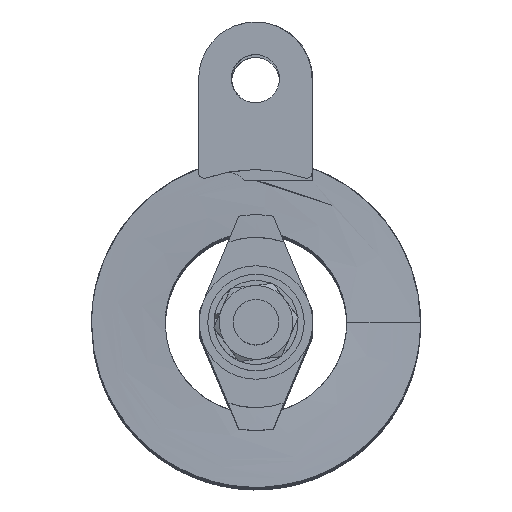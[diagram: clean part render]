
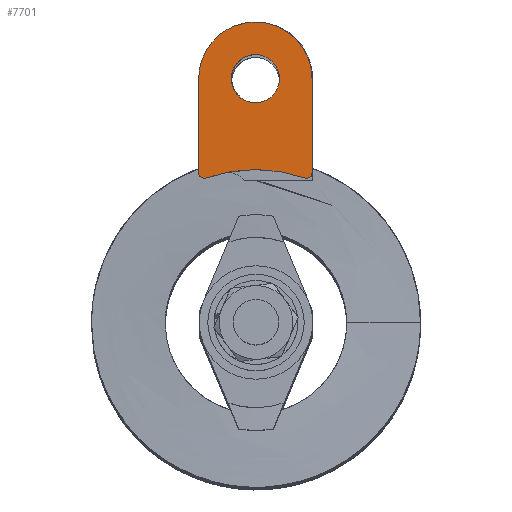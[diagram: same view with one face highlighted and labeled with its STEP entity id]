
A CAD part, top view. The second image highlights one B-rep face of the part: STEP entity #7701.
In plain terms, the highlighted planar face has unit normal (-0.036, 0, 0.999) as drawn and (0.036, -0.999, 0) by its records, which use the part's own axes.
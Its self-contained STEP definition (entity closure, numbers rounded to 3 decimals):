
#138=FACE_BOUND('',#2778,.T.);
#1308=LINE('',#21251,#1745);
#1313=LINE('',#23562,#1750);
#1745=VECTOR('',#9555,10.);
#1750=VECTOR('',#9562,10.);
#2364=FACE_OUTER_BOUND('',#2777,.T.);
#2777=EDGE_LOOP('',(#7072,#7073,#7074,#7075,#7076,#7077));
#2778=EDGE_LOOP('',(#7078));
#2854=CIRCLE('',#8318,1.);
#2857=CIRCLE('',#8323,26.);
#2858=CIRCLE('',#8325,1.);
#2859=CIRCLE('',#8327,10.);
#2860=CIRCLE('',#8329,4.25);
#3609=VERTEX_POINT('',#20974);
#3611=VERTEX_POINT('',#21018);
#3615=VERTEX_POINT('',#21058);
#3616=VERTEX_POINT('',#21078);
#3620=VERTEX_POINT('',#21111);
#3621=VERTEX_POINT('',#21120);
#3622=VERTEX_POINT('',#21124);
#4752=EDGE_CURVE('',#3609,#3611,#2854,.T.);
#4758=EDGE_CURVE('',#3611,#3615,#2857,.T.);
#4760=EDGE_CURVE('',#3615,#3616,#2858,.T.);
#4765=EDGE_CURVE('',#3621,#3620,#2859,.T.);
#4767=EDGE_CURVE('',#3622,#3622,#2860,.T.);
#4773=EDGE_CURVE('',#3616,#3621,#1308,.T.);
#4782=EDGE_CURVE('',#3609,#3620,#1313,.T.);
#7072=ORIENTED_EDGE('',*,*,#4760,.T.);
#7073=ORIENTED_EDGE('',*,*,#4773,.T.);
#7074=ORIENTED_EDGE('',*,*,#4765,.T.);
#7075=ORIENTED_EDGE('',*,*,#4782,.F.);
#7076=ORIENTED_EDGE('',*,*,#4752,.T.);
#7077=ORIENTED_EDGE('',*,*,#4758,.T.);
#7078=ORIENTED_EDGE('',*,*,#4767,.T.);
#7160=PLANE('',#8331);
#7701=ADVANCED_FACE('',(#2364,#138),#7160,.T.);
#8318=AXIS2_PLACEMENT_3D('',#21020,#9524,#9525);
#8323=AXIS2_PLACEMENT_3D('',#21060,#9535,#9536);
#8325=AXIS2_PLACEMENT_3D('',#21079,#9539,#9540);
#8327=AXIS2_PLACEMENT_3D('',#21121,#9544,#9545);
#8329=AXIS2_PLACEMENT_3D('',#21125,#9549,#9550);
#8331=AXIS2_PLACEMENT_3D('',#23561,#9560,#9561);
#9524=DIRECTION('center_axis',(0.036,-0.999,0.));
#9525=DIRECTION('ref_axis',(0.999,0.036,0.));
#9535=DIRECTION('center_axis',(-0.036,0.999,0.));
#9536=DIRECTION('ref_axis',(0.333,0.012,0.943));
#9539=DIRECTION('center_axis',(0.036,-0.999,0.));
#9540=DIRECTION('ref_axis',(0.333,0.012,0.943));
#9544=DIRECTION('center_axis',(0.036,-0.999,0.));
#9545=DIRECTION('ref_axis',(-0.999,-0.036,0.));
#9549=DIRECTION('center_axis',(-0.036,0.999,0.));
#9550=DIRECTION('ref_axis',(-0.999,-0.036,0.));
#9555=DIRECTION('',(0.,0.,-1.));
#9560=DIRECTION('center_axis',(0.036,-0.999,0.));
#9561=DIRECTION('ref_axis',(-0.999,-0.036,0.));
#9562=DIRECTION('',(0.,0.,-1.));
#20974=CARTESIAN_POINT('',(10.113,-1.509,-26.456));
#21018=CARTESIAN_POINT('',(8.781,-1.557,-25.513));
#21020=CARTESIAN_POINT('Origin',(9.114,-1.545,-26.456));
#21058=CARTESIAN_POINT('',(-8.541,-2.188,-25.513));
#21060=CARTESIAN_POINT('Origin',(0.12,-1.873,-1.));
#21078=CARTESIAN_POINT('',(-9.874,-2.237,-26.456));
#21079=CARTESIAN_POINT('Origin',(-8.874,-2.2,-26.456));
#21111=CARTESIAN_POINT('',(10.113,-1.509,-43.));
#21120=CARTESIAN_POINT('',(-9.874,-2.237,-43.));
#21121=CARTESIAN_POINT('Origin',(0.12,-1.873,-43.));
#21124=CARTESIAN_POINT('',(4.367,-1.718,-43.));
#21125=CARTESIAN_POINT('Origin',(0.12,-1.873,-43.));
#21251=CARTESIAN_POINT('',(-9.874,-2.237,-25.));
#23561=CARTESIAN_POINT('Origin',(10.113,-1.509,-25.));
#23562=CARTESIAN_POINT('',(10.113,-1.509,-25.));
